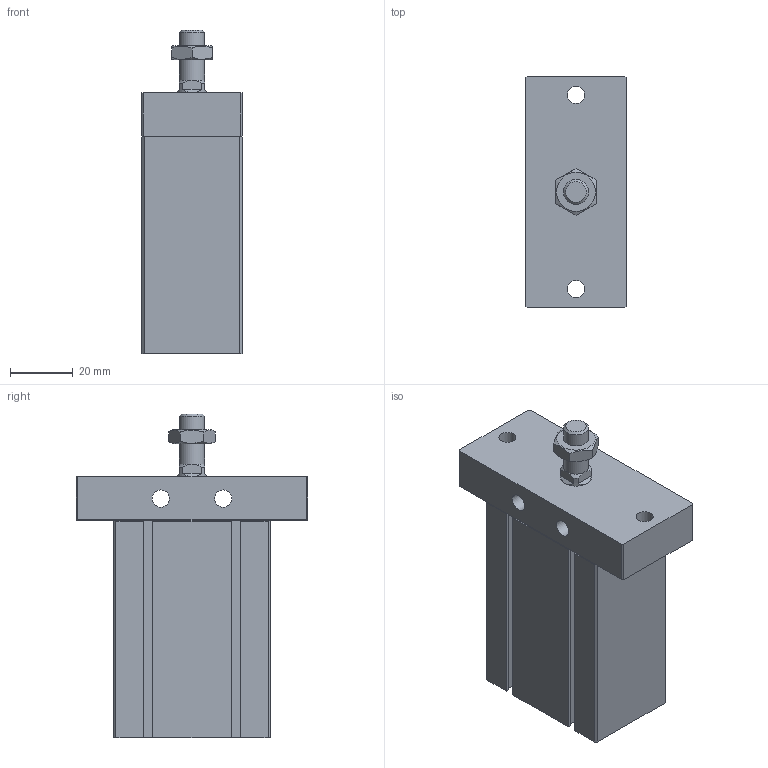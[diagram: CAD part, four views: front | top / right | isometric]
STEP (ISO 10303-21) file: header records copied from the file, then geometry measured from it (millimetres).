
FILE_DESCRIPTION((''),'2;1');
FILE_NAME('J:\3D電子目錄\氣缸\ND\ND\ND25-FB\ND25x40-FB.stp','2008-03-12T17:31:56',('66-2f-008'),(''),'Autodesk Inventor 11','Autodesk Inventor 11','');
FILE_SCHEMA(('AUTOMOTIVE_DESIGN { 1 0 10303 214 1 1 1 1 }'));
Length unit declared in the file: millimetre
Products named in the file (1): ND25-FB
Bounding box: 32 x 74 x 103.5 mm (x, y, z)
Volume: 134450.1 mm3; surface area: 26403.4 mm2
Topology: 2 solids, 2 shells, 129 faces, 311 edges, 197 vertices
Faces by surface type: plane 87, cone 14, bspline 14, cylinder 13, torus 1
Full cylindrical faces by diameter (mm): 1.5 x2, 5.5 x2, 8 x2, 17 x1, 28 x1, 29.4 x1
Entity records: 3654 total; most frequent: CARTESIAN_POINT 820, DIRECTION 552, ORIENTED_EDGE 552, EDGE_CURVE 276, VERTEX_POINT 192, VECTOR 192, LINE 192, AXIS2_PLACEMENT_3D 180
